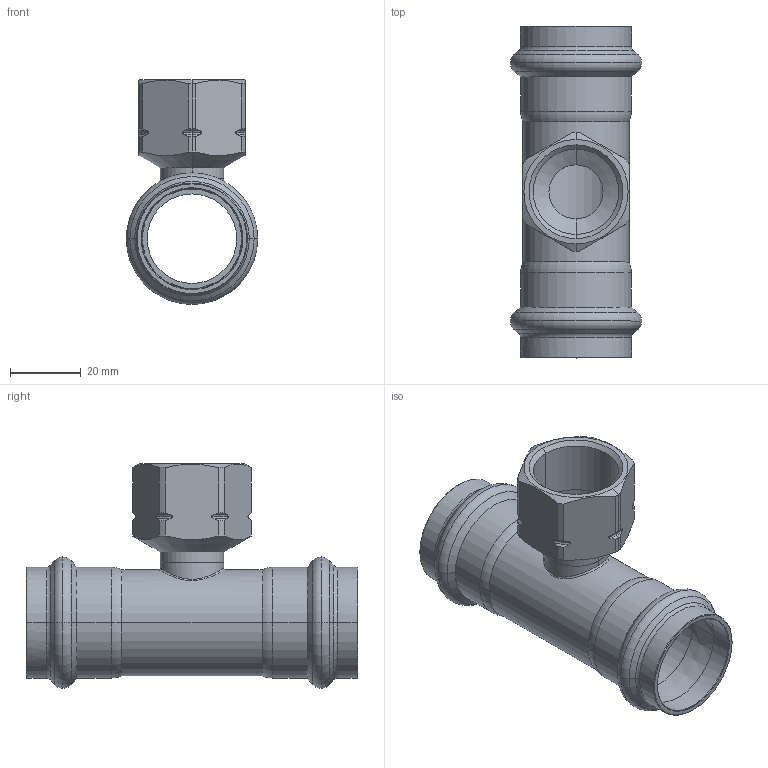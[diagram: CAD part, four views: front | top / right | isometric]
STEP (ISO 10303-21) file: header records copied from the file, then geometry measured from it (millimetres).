
FILE_DESCRIPTION(('CoCreate Modeling STEP Export'),'2;1');
FILE_NAME('8130GVW283428.stp','2013-02-12T12:49:51',(''),(''),'CoCreate Modeling STEP processor for AP214 (Solid Model)','CoCreate Modeling 17.00A 17-Jun-2010 (C) Parametric Technology GmbH','');
FILE_SCHEMA(('AUTOMOTIVE_DESIGN { 1 0 10303 214 1 1 1 1 }'));
Length unit declared in the file: millimetre
Products named in the file (2): 8130GVW283428
Assembly tree (1 placements, depth 2):
  8130GVW283428
    8130GVW283428
Bounding box: 37.2 x 93.81 x 63.6 mm (x, y, z)
Volume: 24358.1 mm3; surface area: 23856.4 mm2
Topology: 1 solids, 1 shells, 157 faces, 384 edges, 234 vertices
Faces by surface type: cylinder 50, cone 46, torus 44, plane 13, bspline 4
Entity records: 9506 total; most frequent: CARTESIAN_POINT 6468, ORIENTED_EDGE 768, DIRECTION 448, EDGE_CURVE 384, VERTEX_POINT 234, AXIS2_PLACEMENT_3D 182, EDGE_LOOP 166, FACE_OUTER_BOUND 157
